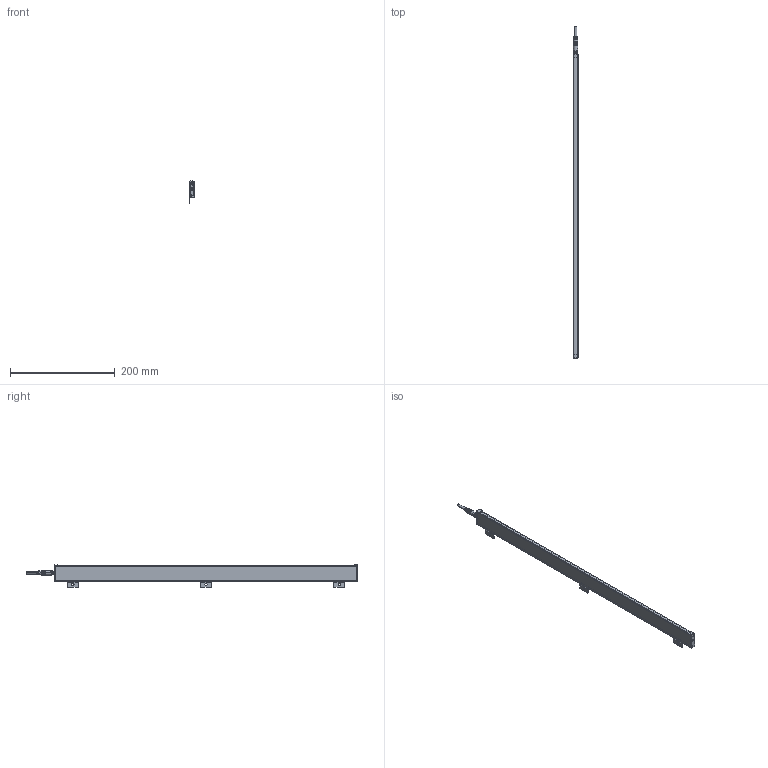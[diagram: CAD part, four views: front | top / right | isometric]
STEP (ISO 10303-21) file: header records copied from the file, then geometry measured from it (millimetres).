
FILE_DESCRIPTION (( 'STEP AP214' ), '1' );
FILE_NAME ('ILG-N-K2-0580mm.STEP', '2017-07-10T13:50:18', ( '' ), ( '' ), 'SwSTEP 2.0', 'SolidWorks 2016', '' );
FILE_SCHEMA (( 'AUTOMOTIVE_DESIGN' ));
Length unit declared in the file: millimetre
Products named in the file (1): ILG-N-K2-0580mm
Bounding box: 10.23 x 633.5 x 42.41 mm (x, y, z)
Surface area: 103445.7 mm2 (no closed solid volume)
Topology: 0 solids, 16 shells, 781 faces, 2020 edges, 1269 vertices
Faces by surface type: plane 346, cylinder 297, cone 90, bspline 32, torus 16
Entity records: 34483 total; most frequent: CARTESIAN_POINT 6956, ORIENTED_EDGE 3993, DIRECTION 3858, EDGE_CURVE 2004, AXIS2_PLACEMENT_3D 1419, VERTEX_POINT 1269, VECTOR 1020, LINE 1020
